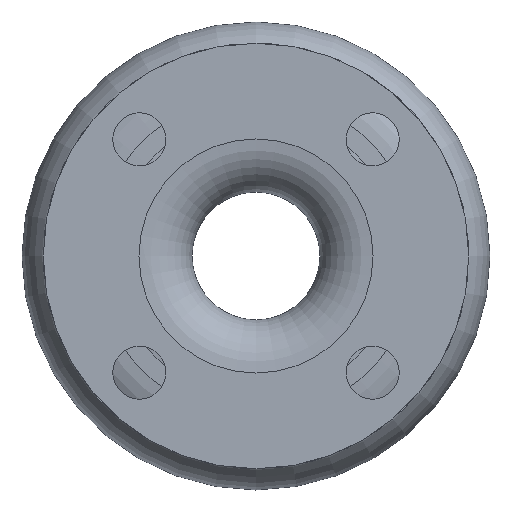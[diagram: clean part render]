
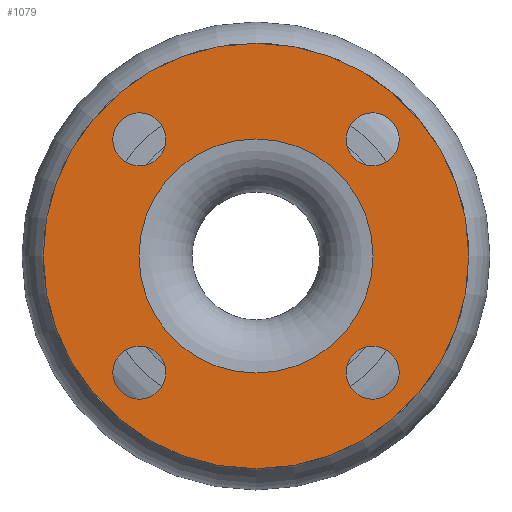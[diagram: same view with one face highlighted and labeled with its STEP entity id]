
A CAD part, left-side view. The second image highlights one B-rep face of the part: STEP entity #1079.
In plain terms, the highlighted planar face has unit normal (-1, 0, 0).
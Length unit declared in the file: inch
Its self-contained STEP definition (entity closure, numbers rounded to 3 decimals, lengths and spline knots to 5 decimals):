
#121=PLANE('',#1173);
#166=FACE_BOUND('',#306,.T.);
#167=FACE_BOUND('',#307,.T.);
#168=FACE_BOUND('',#308,.T.);
#169=FACE_BOUND('',#309,.T.);
#170=FACE_BOUND('',#310,.T.);
#223=FACE_OUTER_BOUND('',#305,.T.);
#305=EDGE_LOOP('',(#757));
#306=EDGE_LOOP('',(#758));
#307=EDGE_LOOP('',(#759));
#308=EDGE_LOOP('',(#760));
#309=EDGE_LOOP('',(#761));
#310=EDGE_LOOP('',(#762));
#408=CIRCLE('',#1148,0.3125);
#410=CIRCLE('',#1151,0.3125);
#412=CIRCLE('',#1154,0.3125);
#414=CIRCLE('',#1157,0.3125);
#422=CIRCLE('',#1172,1.375);
#423=CIRCLE('',#1174,2.5);
#498=VERTEX_POINT('',#1692);
#500=VERTEX_POINT('',#1697);
#502=VERTEX_POINT('',#1702);
#504=VERTEX_POINT('',#1707);
#512=VERTEX_POINT('',#1730);
#513=VERTEX_POINT('',#1733);
#602=EDGE_CURVE('',#498,#498,#408,.T.);
#604=EDGE_CURVE('',#500,#500,#410,.T.);
#606=EDGE_CURVE('',#502,#502,#412,.T.);
#608=EDGE_CURVE('',#504,#504,#414,.T.);
#616=EDGE_CURVE('',#512,#512,#422,.T.);
#617=EDGE_CURVE('',#513,#513,#423,.T.);
#757=ORIENTED_EDGE('',*,*,#617,.F.);
#758=ORIENTED_EDGE('',*,*,#616,.T.);
#759=ORIENTED_EDGE('',*,*,#602,.T.);
#760=ORIENTED_EDGE('',*,*,#604,.T.);
#761=ORIENTED_EDGE('',*,*,#606,.T.);
#762=ORIENTED_EDGE('',*,*,#608,.T.);
#1079=ADVANCED_FACE('',(#223,#166,#167,#168,#169,#170),#121,.T.);
#1148=AXIS2_PLACEMENT_3D('',#1693,#1328,#1329);
#1151=AXIS2_PLACEMENT_3D('',#1698,#1334,#1335);
#1154=AXIS2_PLACEMENT_3D('',#1703,#1340,#1341);
#1157=AXIS2_PLACEMENT_3D('',#1708,#1346,#1347);
#1172=AXIS2_PLACEMENT_3D('',#1731,#1376,#1377);
#1173=AXIS2_PLACEMENT_3D('',#1732,#1378,#1379);
#1174=AXIS2_PLACEMENT_3D('',#1734,#1380,#1381);
#1328=DIRECTION('center_axis',(1.,0.,0.));
#1329=DIRECTION('ref_axis',(0.,-1.,0.));
#1334=DIRECTION('center_axis',(1.,0.,0.));
#1335=DIRECTION('ref_axis',(0.,0.,
1.));
#1340=DIRECTION('center_axis',(1.,0.,0.));
#1341=DIRECTION('ref_axis',(0.,1.,0.));
#1346=DIRECTION('center_axis',(1.,0.,0.));
#1347=DIRECTION('ref_axis',(0.,0.,-1.));
#1376=DIRECTION('center_axis',(1.,0.,0.));
#1377=DIRECTION('ref_axis',(0.,0.,-1.));
#1378=DIRECTION('center_axis',(-1.,0.,0.));
#1379=DIRECTION('ref_axis',(0.,0.,1.));
#1380=DIRECTION('center_axis',(1.,0.,0.));
#1381=DIRECTION('ref_axis',(0.,0.,-1.));
#1692=CARTESIAN_POINT('',(-3.,-1.05752,-1.37002));
#1693=CARTESIAN_POINT('Origin',(-3.,-1.37002,-1.37002));
#1697=CARTESIAN_POINT('',(-3.,-1.37002,1.05752));
#1698=CARTESIAN_POINT('Origin',(-3.,-1.37002,1.37002));
#1702=CARTESIAN_POINT('',(-3.,1.05752,1.37002));
#1703=CARTESIAN_POINT('Origin',(-3.,1.37002,1.37002));
#1707=CARTESIAN_POINT('',(-3.,1.37002,-1.05752));
#1708=CARTESIAN_POINT('Origin',(-3.,1.37002,-1.37002));
#1730=CARTESIAN_POINT('',(-3.,1.375,0.));
#1731=CARTESIAN_POINT('Origin',(-3.,0.,0.));
#1732=CARTESIAN_POINT('Origin',(-3.,2.5,0.));
#1733=CARTESIAN_POINT('',(-3.,2.5,0.));
#1734=CARTESIAN_POINT('Origin',(-3.,0.,0.));
